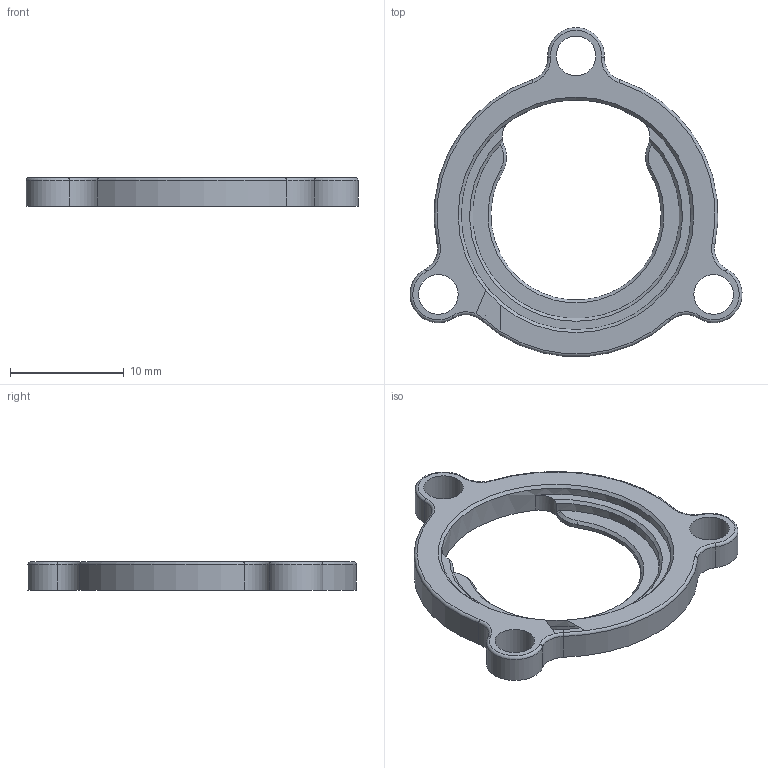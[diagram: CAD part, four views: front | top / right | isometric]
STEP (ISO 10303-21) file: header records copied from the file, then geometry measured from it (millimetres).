
FILE_DESCRIPTION(/* description */ (''),/* implementation_level */ '2;1');
FILE_NAME(/* name */ 'C:/Users/bodhe/OneDrive - Obvious Innovations LLC/Documents/Soberton Parts/Enclosure files/ec-003j.step',/* time_stamp */ '2021-04-26T18:04:30-05:00',/* author */ (''),/* organization */ (''),/* preprocessor_version */ 'ST-DEVELOPER v18.1',/* originating_system */ 'Autodesk Translation Framework v10.6.0.1341',/* authorisation */ '');
FILE_SCHEMA (('AUTOMOTIVE_DESIGN { 1 0 10303 214 3 1 1 }'));
Length unit declared in the file: millimetre
Products named in the file (1): ec-003j
Bounding box: 29.24 x 28.95 x 2.5 mm (x, y, z)
Volume: 594.8 mm3; surface area: 1045.4 mm2
Topology: 1 solids, 1 shells, 48 faces, 119 edges, 74 vertices
Faces by surface type: cylinder 23, torus 12, cone 7, plane 5, bspline 1
Full cylindrical faces by diameter (mm): 3.5 x3, 20.25 x1
Entity records: 1515 total; most frequent: DIRECTION 290, CARTESIAN_POINT 268, ORIENTED_EDGE 238, AXIS2_PLACEMENT_3D 130, EDGE_CURVE 119, CIRCLE 82, VERTEX_POINT 74, EDGE_LOOP 57
